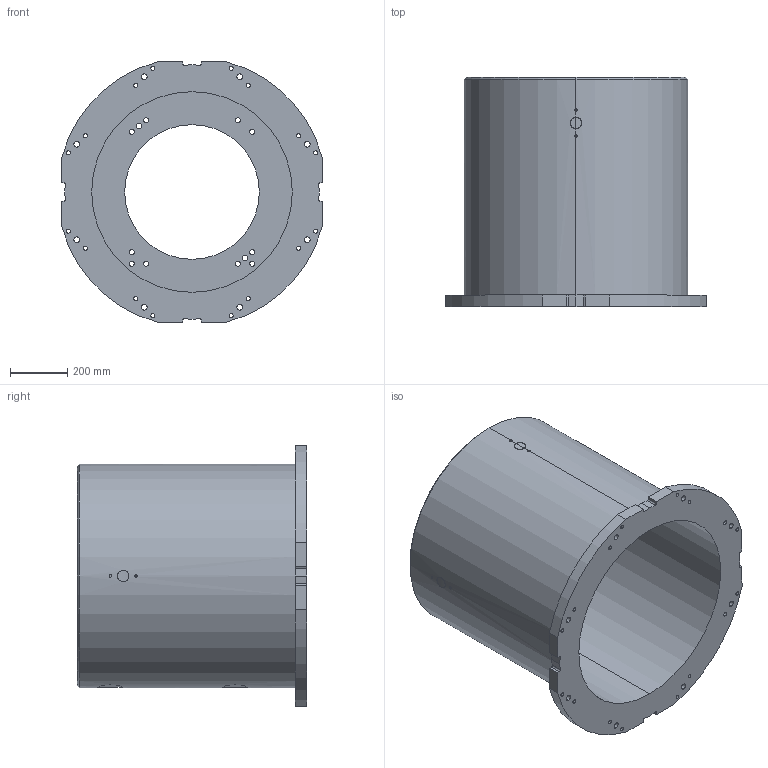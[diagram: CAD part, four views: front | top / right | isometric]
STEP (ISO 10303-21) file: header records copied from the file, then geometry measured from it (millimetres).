
FILE_DESCRIPTION (( 'STEP AP214' ), '1' );
FILE_NAME ('P-800.STEP', '2024-01-24T08:41:41', ( '' ), ( '' ), 'SwSTEP 2.0', 'SolidWorks 2022', '' );
FILE_SCHEMA (( 'AUTOMOTIVE_DESIGN' ));
Length unit declared in the file: millimetre
Products named in the file (1): P-800
Bounding box: 910 x 800 x 910 mm (x, y, z)
Volume: 89946801.9 mm3; surface area: 4780949.7 mm2
Topology: 1 solids, 1 shells, 203 faces, 565 edges, 376 vertices
Faces by surface type: cylinder 149, plane 28, bspline 24, cone 2
Entity records: 12485 total; most frequent: CARTESIAN_POINT 6354, ORIENTED_EDGE 1130, DIRECTION 969, EDGE_CURVE 565, AXIS2_PLACEMENT_3D 378, VERTEX_POINT 376, EDGE_LOOP 289, LINE 213
